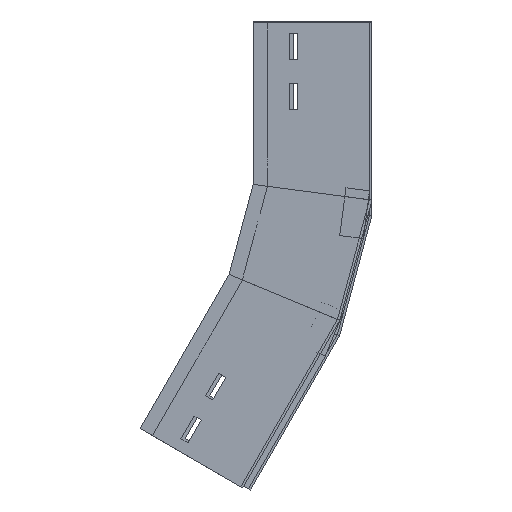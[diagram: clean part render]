
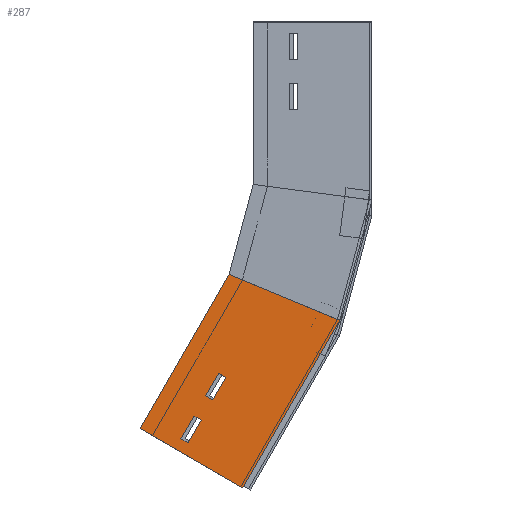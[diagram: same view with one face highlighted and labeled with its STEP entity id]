
A CAD part, left-side view. The second image highlights one B-rep face of the part: STEP entity #287.
In plain terms, the highlighted planar face has unit normal (-1, 0, 0) as drawn and (1, 0, 0) by its records, which use the part's own axes.
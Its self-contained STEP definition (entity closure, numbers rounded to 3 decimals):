
#9 = CARTESIAN_POINT ( 'NONE',  ( 0., 0., -163. ) ) ;
#10 = DIRECTION ( 'NONE',  ( -1., 0., 0. ) ) ;
#51 = VECTOR ( 'NONE', #811, 1000. ) ;
#67 = ORIENTED_EDGE ( 'NONE', *, *, #174, .T. ) ;
#73 = VERTEX_POINT ( 'NONE', #702 ) ;
#89 = CARTESIAN_POINT ( 'NONE',  ( 0., 0., 0. ) ) ;
#93 = VECTOR ( 'NONE', #563, 1000. ) ;
#120 = LINE ( 'NONE', #576, #1384 ) ;
#153 = CARTESIAN_POINT ( 'NONE',  ( 0., 59., -31.835 ) ) ;
#158 = CARTESIAN_POINT ( 'NONE',  ( 0., 66., -73.505 ) ) ;
#171 = VERTEX_POINT ( 'NONE', #89 ) ;
#173 = LINE ( 'NONE', #618, #93 ) ;
#174 = EDGE_CURVE ( 'NONE', #1271, #755, #1112, .T. ) ;
#176 = EDGE_CURVE ( 'NONE', #822, #1222, #1084, .T. ) ;
#187 = DIRECTION ( 'NONE',  ( 0., 0., 1. ) ) ;
#227 = LINE ( 'NONE', #550, #1336 ) ;
#231 = PLANE ( 'NONE',  #1133 ) ;
#252 = LINE ( 'NONE', #819, #1378 ) ;
#255 = DIRECTION ( 'NONE',  ( 0., 0., -1. ) ) ;
#276 = LINE ( 'NONE', #919, #916 ) ;
#285 = ORIENTED_EDGE ( 'NONE', *, *, #982, .T. ) ;
#287 = ADVANCED_FACE ( 'NONE', ( #500, #1023, #807 ), #231, .F. ) ;
#295 = EDGE_CURVE ( 'NONE', #927, #824, #120, .T. ) ;
#351 = VECTOR ( 'NONE', #768, 1000. ) ;
#382 = EDGE_CURVE ( 'NONE', #974, #776, #428, .T. ) ;
#425 = EDGE_CURVE ( 'NONE', #171, #879, #227, .T. ) ;
#428 = LINE ( 'NONE', #785, #949 ) ;
#493 = CARTESIAN_POINT ( 'NONE',  ( 0., 0., 0. ) ) ;
#500 = FACE_BOUND ( 'NONE', #1488, .T. ) ;
#550 = CARTESIAN_POINT ( 'NONE',  ( 0., 0., 0. ) ) ;
#563 = DIRECTION ( 'NONE',  ( 0., 1., 0. ) ) ;
#576 = CARTESIAN_POINT ( 'NONE',  ( 0., 21.094, -160.223 ) ) ;
#581 = CARTESIAN_POINT ( 'NONE',  ( 0., 59., -73.505 ) ) ;
#601 = ORIENTED_EDGE ( 'NONE', *, *, #382, .T. ) ;
#618 = CARTESIAN_POINT ( 'NONE',  ( 0., 66., -9.835 ) ) ;
#642 = ORIENTED_EDGE ( 'NONE', *, *, #176, .T. ) ;
#654 = DIRECTION ( 'NONE',  ( 0., 0., -1. ) ) ;
#657 = ORIENTED_EDGE ( 'NONE', *, *, #865, .T. ) ;
#681 = DIRECTION ( 'NONE',  ( 0., 0., 1. ) ) ;
#702 = CARTESIAN_POINT ( 'NONE',  ( 0., 66., -9.835 ) ) ;
#719 = DIRECTION ( 'NONE',  ( 0., 0., -1. ) ) ;
#742 = CARTESIAN_POINT ( 'NONE',  ( 0., 66., -51.505 ) ) ;
#755 = VERTEX_POINT ( 'NONE', #955 ) ;
#768 = DIRECTION ( 'NONE',  ( 0., 0., 1. ) ) ;
#776 = VERTEX_POINT ( 'NONE', #158 ) ;
#785 = CARTESIAN_POINT ( 'NONE',  ( 0., 66., -51.505 ) ) ;
#807 = FACE_BOUND ( 'NONE', #873, .T. ) ;
#811 = DIRECTION ( 'NONE',  ( 0., 1., 0. ) ) ;
#812 = CARTESIAN_POINT ( 'NONE',  ( 0., 66., -9.835 ) ) ;
#813 = LINE ( 'NONE', #1137, #1178 ) ;
#819 = CARTESIAN_POINT ( 'NONE',  ( 0., 66., -73.505 ) ) ;
#821 = LINE ( 'NONE', #493, #1141 ) ;
#822 = VERTEX_POINT ( 'NONE', #581 ) ;
#824 = VERTEX_POINT ( 'NONE', #9 ) ;
#826 = LINE ( 'NONE', #1265, #51 ) ;
#835 = DIRECTION ( 'NONE',  ( 0., -1., 0. ) ) ;
#855 = EDGE_CURVE ( 'NONE', #73, #1135, #1386, .T. ) ;
#865 = EDGE_CURVE ( 'NONE', #171, #824, #821, .T. ) ;
#873 = EDGE_LOOP ( 'NONE', ( #285, #989, #1109, #67 ) ) ;
#879 = VERTEX_POINT ( 'NONE', #1428 ) ;
#916 = VECTOR ( 'NONE', #1284, 1000. ) ;
#919 = CARTESIAN_POINT ( 'NONE',  ( 0., 66., -31.835 ) ) ;
#927 = VERTEX_POINT ( 'NONE', #1076 ) ;
#934 = ORIENTED_EDGE ( 'NONE', *, *, #1394, .T. ) ;
#949 = VECTOR ( 'NONE', #654, 1000. ) ;
#955 = CARTESIAN_POINT ( 'NONE',  ( 0., 59., -9.835 ) ) ;
#974 = VERTEX_POINT ( 'NONE', #742 ) ;
#980 = ORIENTED_EDGE ( 'NONE', *, *, #295, .F. ) ;
#982 = EDGE_CURVE ( 'NONE', #755, #73, #173, .T. ) ;
#989 = ORIENTED_EDGE ( 'NONE', *, *, #855, .T. ) ;
#1007 = DIRECTION ( 'NONE',  ( 0., 1., 0. ) ) ;
#1022 = CARTESIAN_POINT ( 'NONE',  ( 0., 66., -31.835 ) ) ;
#1023 = FACE_OUTER_BOUND ( 'NONE', #1161, .T. ) ;
#1032 = DIRECTION ( 'NONE',  ( 0., 0., -1. ) ) ;
#1033 = CARTESIAN_POINT ( 'NONE',  ( 0., 0., 0. ) ) ;
#1045 = VECTOR ( 'NONE', #187, 1000. ) ;
#1076 = CARTESIAN_POINT ( 'NONE',  ( 0., 100., -149.835 ) ) ;
#1084 = LINE ( 'NONE', #1479, #1045 ) ;
#1104 = CARTESIAN_POINT ( 'NONE',  ( 0., 59., -9.835 ) ) ;
#1109 = ORIENTED_EDGE ( 'NONE', *, *, #1437, .T. ) ;
#1112 = LINE ( 'NONE', #1104, #351 ) ;
#1133 = AXIS2_PLACEMENT_3D ( 'NONE', #1033, #10, #681 ) ;
#1135 = VERTEX_POINT ( 'NONE', #1022 ) ;
#1137 = CARTESIAN_POINT ( 'NONE',  ( 0., 100., 0. ) ) ;
#1141 = VECTOR ( 'NONE', #255, 1000. ) ;
#1158 = EDGE_CURVE ( 'NONE', #879, #927, #813, .T. ) ;
#1161 = EDGE_LOOP ( 'NONE', ( #1300, #1426, #657, #980 ) ) ;
#1178 = VECTOR ( 'NONE', #1032, 1000. ) ;
#1179 = CARTESIAN_POINT ( 'NONE',  ( 0., 59., -51.505 ) ) ;
#1222 = VERTEX_POINT ( 'NONE', #1179 ) ;
#1265 = CARTESIAN_POINT ( 'NONE',  ( 0., 66., -51.505 ) ) ;
#1271 = VERTEX_POINT ( 'NONE', #153 ) ;
#1284 = DIRECTION ( 'NONE',  ( 0., -1., 0. ) ) ;
#1300 = ORIENTED_EDGE ( 'NONE', *, *, #1158, .F. ) ;
#1336 = VECTOR ( 'NONE', #1007, 1000. ) ;
#1353 = ORIENTED_EDGE ( 'NONE', *, *, #1413, .T. ) ;
#1378 = VECTOR ( 'NONE', #835, 1000. ) ;
#1380 = DIRECTION ( 'NONE',  ( 0., -0.991, -0.131 ) ) ;
#1384 = VECTOR ( 'NONE', #1380, 1000. ) ;
#1386 = LINE ( 'NONE', #812, #1441 ) ;
#1394 = EDGE_CURVE ( 'NONE', #1222, #974, #826, .T. ) ;
#1413 = EDGE_CURVE ( 'NONE', #776, #822, #252, .T. ) ;
#1426 = ORIENTED_EDGE ( 'NONE', *, *, #425, .F. ) ;
#1428 = CARTESIAN_POINT ( 'NONE',  ( 0., 100., 0. ) ) ;
#1437 = EDGE_CURVE ( 'NONE', #1135, #1271, #276, .T. ) ;
#1441 = VECTOR ( 'NONE', #719, 1000. ) ;
#1479 = CARTESIAN_POINT ( 'NONE',  ( 0., 59., -51.505 ) ) ;
#1488 = EDGE_LOOP ( 'NONE', ( #934, #601, #1353, #642 ) ) ;
